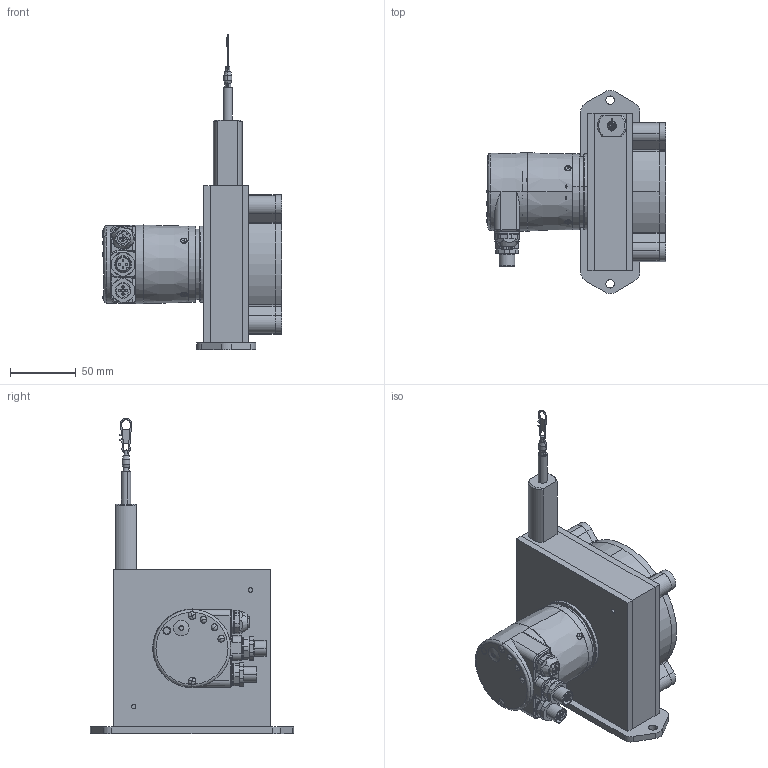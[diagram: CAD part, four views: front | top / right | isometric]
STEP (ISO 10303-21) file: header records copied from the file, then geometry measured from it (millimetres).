
FILE_DESCRIPTION (( 'STEP AP214' ), '1' );
FILE_NAME ('D8.4C1.0600.6832.3113.STEP', '2009-05-12T08:29:34', ( 'admin' ), ( 'Fritz Kübler GmbH' ), 'SwSTEP 2.0', 'SolidWorks 2009', '' );
FILE_SCHEMA (( 'AUTOMOTIVE_DESIGN' ));
Length unit declared in the file: millimetre
Products named in the file (1): D8.4C1.0600.6832.3113
Bounding box: 136.65 x 155 x 240.32 mm (x, y, z)
Volume: 411816 mm3; surface area: 218776.6 mm2
Topology: 30 solids, 31 shells, 1569 faces, 3824 edges, 2361 vertices
Faces by surface type: cylinder 634, plane 477, cone 242, torus 141, bspline 48, sphere 27
Entity records: 67428 total; most frequent: CARTESIAN_POINT 12530, DIRECTION 8268, ORIENTED_EDGE 7508, EDGE_CURVE 3754, AXIS2_PLACEMENT_3D 3347, VERTEX_POINT 2357, CIRCLE 1825, EDGE_LOOP 1797
